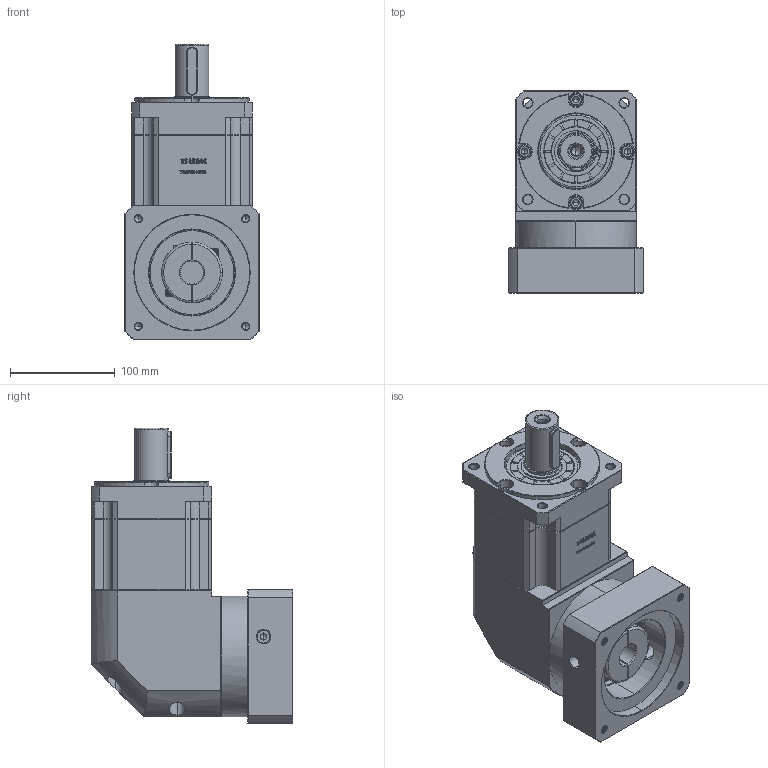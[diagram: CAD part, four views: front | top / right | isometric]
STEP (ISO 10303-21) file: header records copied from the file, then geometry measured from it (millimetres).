
FILE_DESCRIPTION (( 'STEP AP214' ), '1' );
FILE_NAME ('ZBR115A-D32-L2-22-110-145-M8.step', '2023-03-03T05:02:04', ( '' ), ( 'Microsoft' ), 'SwSTEP 2.0', 'SolidWorks 2016', '' );
FILE_SCHEMA (( 'AUTOMOTIVE_DESIGN' ));
Length unit declared in the file: millimetre
Products named in the file (1): ZBR115A-D32-L2-22-110-145-M8
Bounding box: 128 x 192.4 x 281.5 mm (x, y, z)
Volume: 3385968.4 mm3; surface area: 267495.5 mm2
Topology: 6 solids, 6 shells, 2983 faces, 7915 edges, 5078 vertices
Faces by surface type: plane 1559, bspline 607, cylinder 439, cone 370, torus 8
Entity records: 162115 total; most frequent: CARTESIAN_POINT 60115, ORIENTED_EDGE 15770, DIRECTION 11941, EDGE_CURVE 7885, LINE 5307, VECTOR 5307, VERTEX_POINT 5078, AXIS2_PLACEMENT_3D 3317
